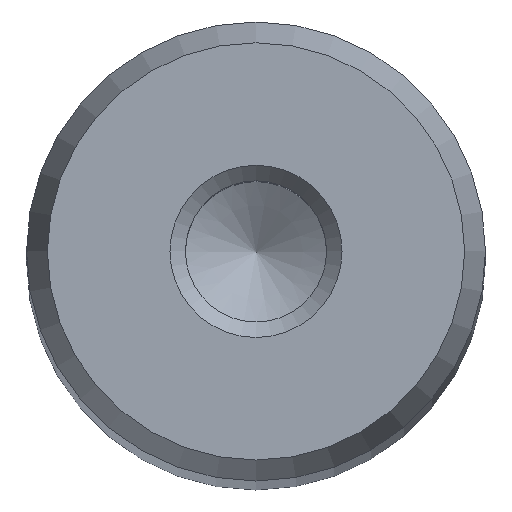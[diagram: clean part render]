
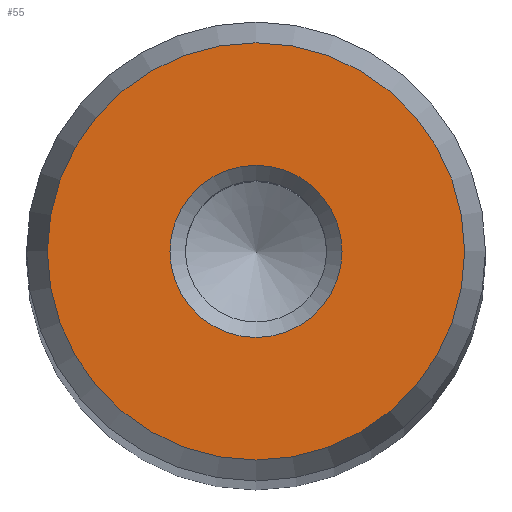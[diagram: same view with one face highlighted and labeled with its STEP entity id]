
A CAD part, top view. The second image highlights one B-rep face of the part: STEP entity #55.
In plain terms, the highlighted planar face has unit normal (0, 0, 1).
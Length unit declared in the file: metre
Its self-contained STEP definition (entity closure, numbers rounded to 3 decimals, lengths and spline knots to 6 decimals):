
#55 = ADVANCED_FACE( '', ( #116, #117 ), #118, .T. );
#116 = FACE_OUTER_BOUND( '', #175, .T. );
#117 = FACE_BOUND( '', #176, .T. );
#118 = PLANE( '', #177 );
#175 = EDGE_LOOP( '', ( #246 ) );
#176 = EDGE_LOOP( '', ( #247 ) );
#177 = AXIS2_PLACEMENT_3D( '', #248, #249, #250 );
#246 = ORIENTED_EDGE( '', *, *, #285, .T. );
#247 = ORIENTED_EDGE( '', *, *, #291, .T. );
#248 = CARTESIAN_POINT( '', ( 0., 0., 0.182 ) );
#249 = DIRECTION( '', ( 0., 0., 1. ) );
#250 = DIRECTION( '', ( 1., 0., 0. ) );
#285 = EDGE_CURVE( '', #321, #321, #322, .T. );
#291 = EDGE_CURVE( '', #328, #328, #329, .T. );
#321 = VERTEX_POINT( '', #358 );
#322 = CIRCLE( '', #359, 0.007272 );
#328 = VERTEX_POINT( '', #365 );
#329 = CIRCLE( '', #366, 0.003 );
#358 = CARTESIAN_POINT( '', ( 0.007272, 0., 0.182 ) );
#359 = AXIS2_PLACEMENT_3D( '', #397, #398, #399 );
#365 = CARTESIAN_POINT( '', ( 0.003, 0., 0.182 ) );
#366 = AXIS2_PLACEMENT_3D( '', #403, #404, #405 );
#397 = CARTESIAN_POINT( '', ( 0., 0., 0.182 ) );
#398 = DIRECTION( '', ( 0., 0., 1. ) );
#399 = DIRECTION( '', ( 1., 0., 0. ) );
#403 = CARTESIAN_POINT( '', ( 0., 0., 0.182 ) );
#404 = DIRECTION( '', ( 0., 0., -1. ) );
#405 = DIRECTION( '', ( 1., 0., 0. ) );
